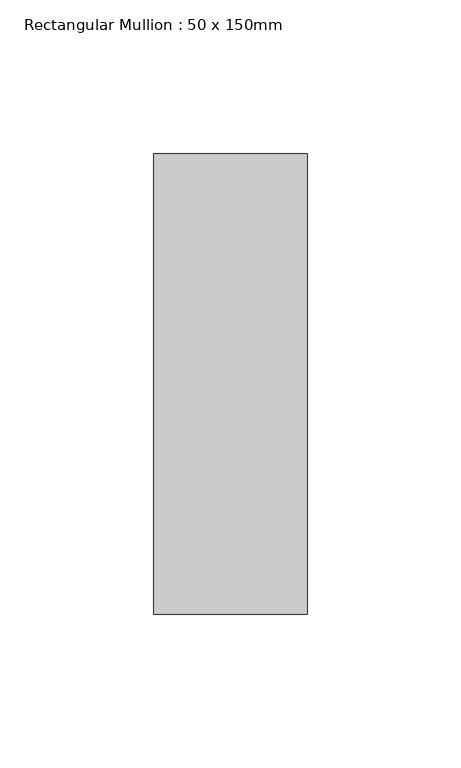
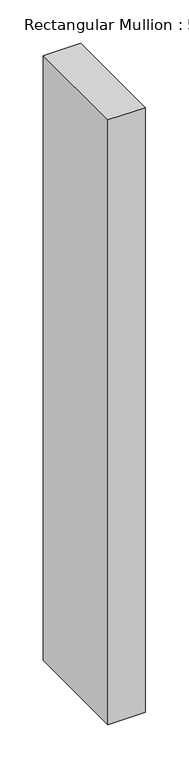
"""IFC4 building model written with IfcOpenShell, lengths in millimetres: member geometry, Rectangular Mullion : 50 x 150mm."""

from ifc_helpers import new_model, si_unit, frame, origin, place, context, project, spatial, polyline, outline, extrude, source, transform, mapped, element, save


def rectangular_mullion_50_x_150mm_32319f50(model_context):
    return source(origin(), model_context, "Body", "SweptSolid", [
        extrude(outline(polyline([(0.0, 75.0), (0.0, -75.0), (-50.0, -75.0), (-50.0, 75.0), (0.0, 75.0)])), frame((0.0, 0.0, -855.0), z_axis=(0.0, 0.0, 1.0), x_axis=(1.0, 0.0, 0.0)), (0.0, 0.0, 1.0), 855.0),
    ])


if __name__ == "__main__":
    model = new_model("IFC4")
    model_context = context("Model", 3, world=origin())
    ifc_project = project(units=[si_unit("LENGTHUNIT", "METRE", prefix="MILLI")], contexts=[model_context])
    site = spatial("IfcSite", under=ifc_project)
    building = spatial("IfcBuilding", under=site)
    placement = place(None, origin())
    rectangular_mullion_50_x_150mm_shape = rectangular_mullion_50_x_150mm_32319f50(model_context)
    element("IfcMember", 1, ObjectType="Rectangular Mullion : 50 x 150mm", at=placement, inside=building, context=model_context, shape_type="MappedRepresentation", body=[
        mapped(rectangular_mullion_50_x_150mm_shape, transform((0.0, 0.0, 0.0), x_axis=(1.0, 0.0, 0.0), y_axis=(0.0, 1.0, 0.0), z_axis=(0.0, 0.0, 1.0))),
    ])
    save(model, "model.ifc")
